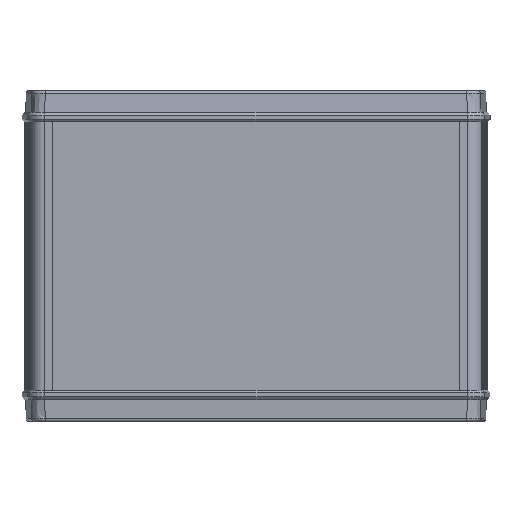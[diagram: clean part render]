
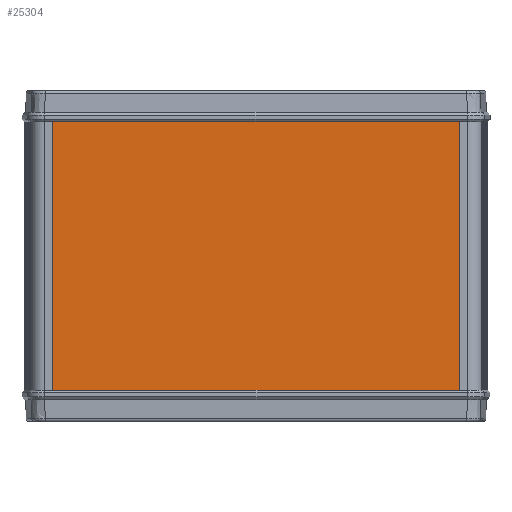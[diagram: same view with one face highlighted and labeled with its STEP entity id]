
A CAD part, front view. The second image highlights one B-rep face of the part: STEP entity #25304.
In plain terms, the highlighted planar face has unit normal (0, -1, 0).
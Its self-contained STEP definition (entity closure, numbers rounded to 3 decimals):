
#2366=FACE_OUTER_BOUND('',#3842,.T.);
#3842=EDGE_LOOP('',(#17707,#17708,#17709,#17710));
#5874=LINE('',#38014,#8464);
#5875=LINE('',#38017,#8465);
#5876=LINE('',#38019,#8466);
#5877=LINE('',#38020,#8467);
#8464=VECTOR('',#30394,100.);
#8465=VECTOR('',#30397,149.);
#8466=VECTOR('',#30398,149.);
#8467=VECTOR('',#30399,100.);
#10921=VERTEX_POINT('',#38010);
#10922=VERTEX_POINT('',#38012);
#10923=VERTEX_POINT('',#38016);
#10924=VERTEX_POINT('',#38018);
#13662=EDGE_CURVE('',#10922,#10921,#5874,.T.);
#13663=EDGE_CURVE('',#10923,#10921,#5875,.T.);
#13664=EDGE_CURVE('',#10922,#10924,#5876,.T.);
#13665=EDGE_CURVE('',#10924,#10923,#5877,.T.);
#17707=ORIENTED_EDGE('',*,*,#13663,.T.);
#17708=ORIENTED_EDGE('',*,*,#13662,.F.);
#17709=ORIENTED_EDGE('',*,*,#13664,.T.);
#17710=ORIENTED_EDGE('',*,*,#13665,.T.);
#24450=PLANE('',#26917);
#25304=ADVANCED_FACE('',(#2366),#24450,.T.);
#26917=AXIS2_PLACEMENT_3D('',#38015,#30395,#30396);
#30394=DIRECTION('',(0.,0.,-1.));
#30395=DIRECTION('center_axis',(0.,-1.,0.));
#30396=DIRECTION('ref_axis',(0.,0.,-1.));
#30397=DIRECTION('',(1.,0.,0.));
#30398=DIRECTION('',(-1.,0.,0.));
#30399=DIRECTION('',(0.,0.,-1.));
#38010=CARTESIAN_POINT('',(155.304,66.916,-200.));
#38012=CARTESIAN_POINT('',(155.304,66.916,-100.));
#38014=CARTESIAN_POINT('',(155.304,66.916,-100.));
#38015=CARTESIAN_POINT('Origin',(6.304,66.916,0.));
#38016=CARTESIAN_POINT('',(6.304,66.916,-200.));
#38017=CARTESIAN_POINT('',(6.304,66.916,-200.));
#38018=CARTESIAN_POINT('',(6.304,66.916,-100.));
#38019=CARTESIAN_POINT('',(155.304,66.916,-100.));
#38020=CARTESIAN_POINT('',(6.304,66.916,-100.));
